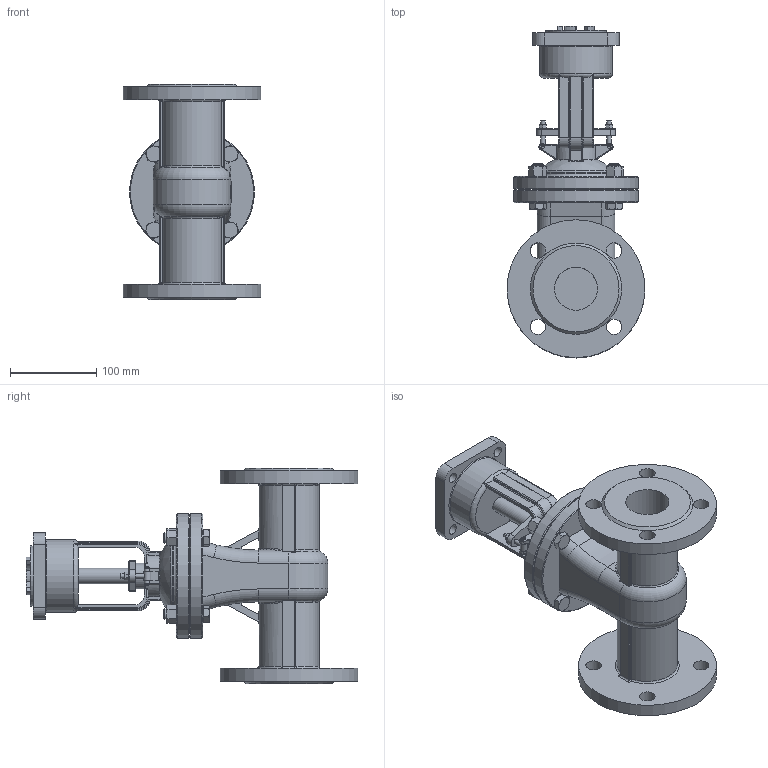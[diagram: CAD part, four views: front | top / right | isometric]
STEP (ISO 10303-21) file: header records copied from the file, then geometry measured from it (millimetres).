
FILE_DESCRIPTION(('STEP AP242'), '1');
FILE_NAME('GVWR2434M-2W-F-ÎÑÒ Çàäâèæêà êëèíîâàÿ ñ âûäâèæíûì øòîêîì Äó50 Ðó25', '2026-05-30T10:39:52', ('R2D2'), (''), 'C3D Converter', 'C3D Toolkit', '');
FILE_SCHEMA(('AP242_MANAGED_MODEL_BASED_3D_ENGINEERING_MIM_LF { 1 0 10303 442 1 1 4 }'));
Length unit declared in the file: millimetre
Products named in the file (1): GVWR2434M-2W-F-ОСТ
Bounding box: 160 x 385 x 250 mm (x, y, z)
Volume: 2681886 mm3; surface area: 333865.7 mm2
Topology: 1 solids, 1 shells, 863 faces, 2198 edges, 1362 vertices
Faces by surface type: plane 345, cylinder 170, extrusion 109, cone 108, bspline 71, torus 59, sphere 1
Full cylindrical faces by diameter (mm): 3 x4, 5 x4, 8 x2, 12 x12, 18 x14, 20 x1, 30 x1, 32 x1, 50 x3, 52 x1, 70 x1, 84.405 x1, 90 x2, 145 x2, 160 x2
Entity records: 49996 total; most frequent: CARTESIAN_POINT 23568, ORIENTED_EDGE 4236, DIRECTION 3486, EDGE_CURVE 2118, VERTEX_POINT 1361, AXIS2_PLACEMENT_3D 1266, EDGE_LOOP 1022, VECTOR 954
